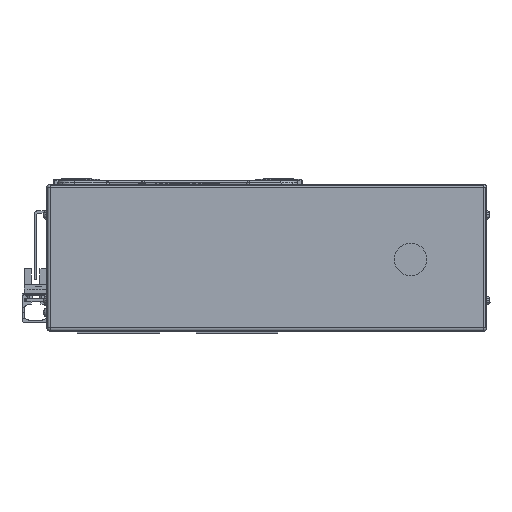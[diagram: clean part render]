
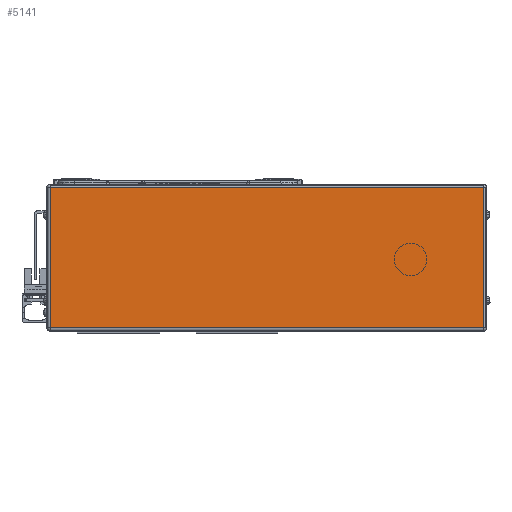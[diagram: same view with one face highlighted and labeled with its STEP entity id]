
A CAD part, left-side view. The second image highlights one B-rep face of the part: STEP entity #5141.
In plain terms, the highlighted planar face has unit normal (-1, 0, 0).
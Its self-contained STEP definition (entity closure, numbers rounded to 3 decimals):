
#5141=ADVANCED_FACE('',(#12224),#12225,.T.);
#12224=FACE_OUTER_BOUND('',#22073,.T.);
#12225=PLANE('',#22074);
#22073=EDGE_LOOP('',(#37199,#37200,#37201,#37202));
#22074=AXIS2_PLACEMENT_3D('',#37203,#37204,#37205);
#37199=ORIENTED_EDGE('',*,*,#60806,.F.);
#37200=ORIENTED_EDGE('',*,*,#60807,.F.);
#37201=ORIENTED_EDGE('',*,*,#60808,.F.);
#37202=ORIENTED_EDGE('',*,*,#57895,.F.);
#37203=CARTESIAN_POINT('',(-45.,-180.5,0.));
#37204=DIRECTION('',(-1.0,0.,0.));
#37205=DIRECTION('',(0.,0.,1.0));
#57895=EDGE_CURVE('',#67160,#69374,#69375,.T.);
#60806=EDGE_CURVE('',#74154,#67160,#74155,.T.);
#60807=EDGE_CURVE('',#72633,#74154,#74156,.T.);
#60808=EDGE_CURVE('',#69374,#72633,#74157,.T.);
#67160=VERTEX_POINT('',#82475);
#69374=VERTEX_POINT('',#85553);
#69375=LINE('',#85554,#85555);
#72633=VERTEX_POINT('',#90210);
#74154=VERTEX_POINT('',#92247);
#74155=LINE('',#92248,#92249);
#74156=LINE('',#92250,#92251);
#74157=LINE('',#92252,#92253);
#82475=CARTESIAN_POINT('',(-45.,-178.5,-41.));
#85553=CARTESIAN_POINT('',(-45.,74.5,-41.));
#85554=CARTESIAN_POINT('',(-45.,-180.5,-41.));
#85555=VECTOR('',#106572,10.0);
#90210=CARTESIAN_POINT('',(-45.,74.5,41.));
#92247=CARTESIAN_POINT('',(-45.,-178.5,41.));
#92248=CARTESIAN_POINT('',(-45.,-178.5,0.));
#92249=VECTOR('',#110751,10.0);
#92250=CARTESIAN_POINT('',(-45.,-180.5,41.));
#92251=VECTOR('',#110752,10.0);
#92252=CARTESIAN_POINT('',(-45.,74.5,0.));
#92253=VECTOR('',#110753,10.0);
#106572=DIRECTION('',(0.,1.0,0.));
#110751=DIRECTION('',(0.,0.,-1.0));
#110752=DIRECTION('',(0.,-1.0,0.));
#110753=DIRECTION('',(0.,0.,1.0));
